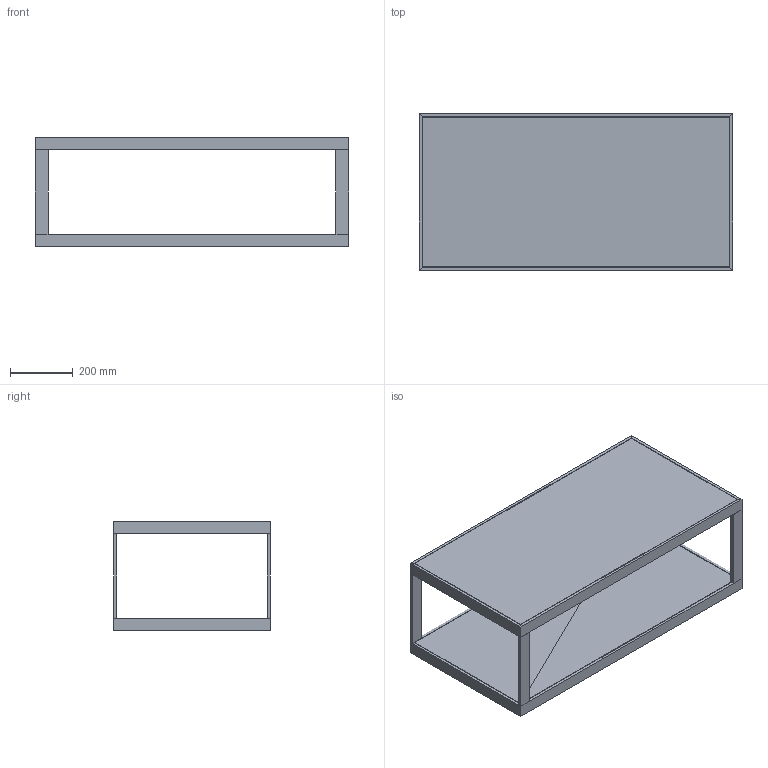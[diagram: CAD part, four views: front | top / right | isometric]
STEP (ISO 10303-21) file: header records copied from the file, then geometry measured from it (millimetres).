
FILE_DESCRIPTION(/* description */ (''),/* implementation_level */ '2;1');
FILE_NAME(/* name */ 'Easy_table100x50.stp',/* time_stamp */ '2023-04-04T10:33:11+02:00',/* author */ ('TorbjörnMalm'),/* organization */ (''),/* preprocessor_version */ 'ST-DEVELOPER v19.2',/* originating_system */ 'Autodesk Inventor 2023',/* authorisation */ '');
FILE_SCHEMA (('AUTOMOTIVE_DESIGN { 1 0 10303 214 3 1 1 }'));
Length unit declared in the file: millimetre
Products named in the file (1): Easy_table100x50
Bounding box: 1000 x 500 x 350 mm (x, y, z)
Volume: 2800000.1 mm3; surface area: 2810737.7 mm2
Topology: 6 solids, 8 shells, 107 faces, 218 edges, 124 vertices
Faces by surface type: plane 107
Entity records: 2830 total; most frequent: CARTESIAN_POINT 450, ORIENTED_EDGE 436, DIRECTION 434, LINE 218, VECTOR 218, EDGE_CURVE 218, VERTEX_POINT 123, AXIS2_PLACEMENT_3D 108
